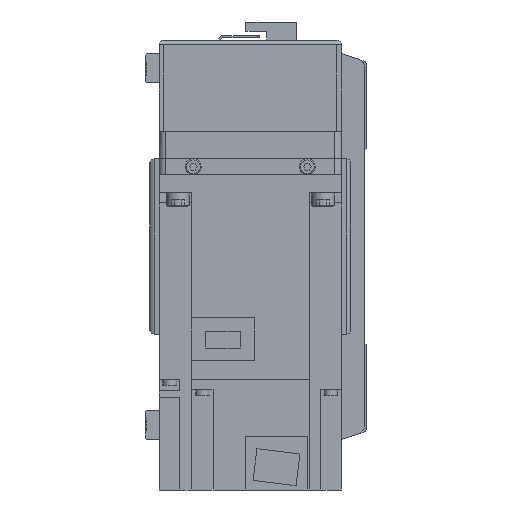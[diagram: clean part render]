
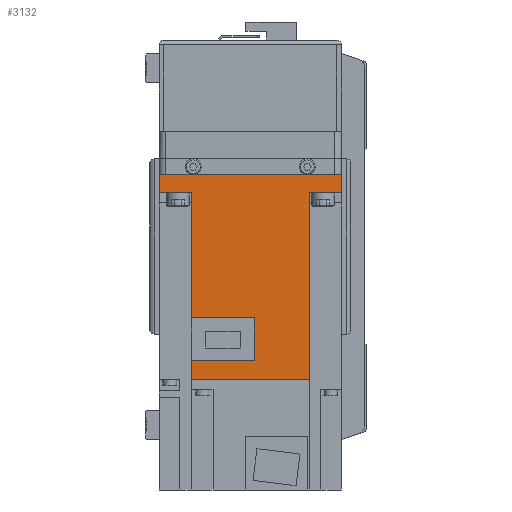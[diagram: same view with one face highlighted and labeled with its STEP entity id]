
A CAD part, left-side view. The second image highlights one B-rep face of the part: STEP entity #3132.
In plain terms, the highlighted planar face has unit normal (-1, 0, 0) as drawn and (1, 0, 0) by its records, which use the part's own axes.
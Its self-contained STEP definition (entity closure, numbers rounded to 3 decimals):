
#3132 = ADVANCED_FACE( '', ( #6492 ), #6493, .F. );
#6492 = FACE_OUTER_BOUND( '', #9862, .T. );
#6493 = PLANE( '', #9863 );
#9862 = EDGE_LOOP( '', ( #18721, #18722, #18723, #18724, #18725, #18726, #18727, #18728, #18729, #18730, #18731, #18732 ) );
#9863 = AXIS2_PLACEMENT_3D( '', #18733, #18734, #18735 );
#18721 = ORIENTED_EDGE( '', *, *, #20577, .F. );
#18722 = ORIENTED_EDGE( '', *, *, #21843, .F. );
#18723 = ORIENTED_EDGE( '', *, *, #20422, .F. );
#18724 = ORIENTED_EDGE( '', *, *, #19443, .T. );
#18725 = ORIENTED_EDGE( '', *, *, #21867, .F. );
#18726 = ORIENTED_EDGE( '', *, *, #21282, .T. );
#18727 = ORIENTED_EDGE( '', *, *, #19980, .T. );
#18728 = ORIENTED_EDGE( '', *, *, #21622, .F. );
#18729 = ORIENTED_EDGE( '', *, *, #21206, .F. );
#18730 = ORIENTED_EDGE( '', *, *, #21844, .F. );
#18731 = ORIENTED_EDGE( '', *, *, #22394, .F. );
#18732 = ORIENTED_EDGE( '', *, *, #22425, .F. );
#18733 = CARTESIAN_POINT( '', ( 40., 89.8, 40. ) );
#18734 = DIRECTION( '', ( -1., 0., 0. ) );
#18735 = DIRECTION( '', ( 0., 0., 1. ) );
#19443 = EDGE_CURVE( '', #23234, #23232, #23235, .T. );
#19980 = EDGE_CURVE( '', #24170, #24168, #24171, .T. );
#20422 = EDGE_CURVE( '', #23234, #24898, #24900, .T. );
#20577 = EDGE_CURVE( '', #25151, #25153, #25154, .T. );
#21206 = EDGE_CURVE( '', #26104, #26105, #26106, .T. );
#21282 = EDGE_CURVE( '', #26215, #24170, #26216, .T. );
#21622 = EDGE_CURVE( '', #26105, #24168, #26691, .T. );
#21843 = EDGE_CURVE( '', #24898, #25151, #26984, .T. );
#21844 = EDGE_CURVE( '', #26975, #26104, #26985, .T. );
#21867 = EDGE_CURVE( '', #26215, #23232, #27012, .T. );
#22394 = EDGE_CURVE( '', #27643, #26975, #27644, .T. );
#22425 = EDGE_CURVE( '', #25153, #27643, #27679, .T. );
#23232 = VERTEX_POINT( '', #28909 );
#23234 = VERTEX_POINT( '', #28912 );
#23235 = LINE( '', #28913, #28914 );
#24168 = VERTEX_POINT( '', #30232 );
#24170 = VERTEX_POINT( '', #30235 );
#24171 = LINE( '', #30236, #30237 );
#24898 = VERTEX_POINT( '', #31242 );
#24900 = LINE( '', #31245, #31246 );
#25151 = VERTEX_POINT( '', #31765 );
#25153 = VERTEX_POINT( '', #31768 );
#25154 = LINE( '', #31769, #31770 );
#26104 = VERTEX_POINT( '', #33180 );
#26105 = VERTEX_POINT( '', #33181 );
#26106 = LINE( '', #33182, #33183 );
#26215 = VERTEX_POINT( '', #33352 );
#26216 = LINE( '', #33353, #33354 );
#26691 = LINE( '', #34019, #34020 );
#26975 = VERTEX_POINT( '', #34412 );
#26984 = LINE( '', #34424, #34425 );
#26985 = LINE( '', #34426, #34427 );
#27012 = LINE( '', #34465, #34466 );
#27643 = VERTEX_POINT( '', #35408 );
#27644 = LINE( '', #35409, #35410 );
#27679 = LINE( '', #35459, #35460 );
#28909 = CARTESIAN_POINT( '', ( 40., 8., 25.95 ) );
#28912 = CARTESIAN_POINT( '', ( 40., 89.8, 25.95 ) );
#28913 = CARTESIAN_POINT( '', ( 40., 158., 25.95 ) );
#28914 = VECTOR( '', #36175, 1000. );
#30232 = CARTESIAN_POINT( '', ( 40., 0., -40. ) );
#30235 = CARTESIAN_POINT( '', ( 40., 0., 40. ) );
#30236 = CARTESIAN_POINT( '', ( 40., 0., 40. ) );
#30237 = VECTOR( '', #36905, 1000. );
#31242 = CARTESIAN_POINT( '', ( 40., 89.8, -25.95 ) );
#31245 = CARTESIAN_POINT( '', ( 40., 89.8, 40. ) );
#31246 = VECTOR( '', #37466, 1000. );
#31765 = CARTESIAN_POINT( '', ( 40., 81.4, -25.95 ) );
#31768 = CARTESIAN_POINT( '', ( 40., 81.4, 1.8 ) );
#31769 = CARTESIAN_POINT( '', ( 40., 81.4, -26. ) );
#31770 = VECTOR( '', #37658, 1000. );
#33180 = CARTESIAN_POINT( '', ( 40., 8., -25.95 ) );
#33181 = CARTESIAN_POINT( '', ( 40., 8., -40. ) );
#33182 = CARTESIAN_POINT( '', ( 40., 8., 40. ) );
#33183 = VECTOR( '', #38413, 1000. );
#33352 = CARTESIAN_POINT( '', ( 40., 8., 40. ) );
#33353 = CARTESIAN_POINT( '', ( 40., 89.8, 40. ) );
#33354 = VECTOR( '', #38504, 1000. );
#34019 = CARTESIAN_POINT( '', ( 40., 89.8, -40. ) );
#34020 = VECTOR( '', #38902, 1000. );
#34412 = CARTESIAN_POINT( '', ( 40., 62.8, -25.95 ) );
#34424 = CARTESIAN_POINT( '', ( 40., 158., -25.95 ) );
#34425 = VECTOR( '', #39141, 1000. );
#34426 = CARTESIAN_POINT( '', ( 40., 158., -25.95 ) );
#34427 = VECTOR( '', #39142, 1000. );
#34465 = CARTESIAN_POINT( '', ( 40., 8., 40. ) );
#34466 = VECTOR( '', #39163, 1000. );
#35408 = CARTESIAN_POINT( '', ( 40., 62.8, 1.8 ) );
#35409 = CARTESIAN_POINT( '', ( 40., 62.8, 1.8 ) );
#35410 = VECTOR( '', #39681, 1000. );
#35459 = CARTESIAN_POINT( '', ( 40., 81.4, 1.8 ) );
#35460 = VECTOR( '', #39702, 1000. );
#36175 = DIRECTION( '', ( 0., -1., 0. ) );
#36905 = DIRECTION( '', ( 0., 0., -1. ) );
#37466 = DIRECTION( '', ( 0., 0., -1. ) );
#37658 = DIRECTION( '', ( 0., 0., 1. ) );
#38413 = DIRECTION( '', ( 0., 0., -1. ) );
#38504 = DIRECTION( '', ( 0., -1., 0. ) );
#38902 = DIRECTION( '', ( 0., -1., 0. ) );
#39141 = DIRECTION( '', ( 0., -1., 0. ) );
#39142 = DIRECTION( '', ( 0., -1., 0. ) );
#39163 = DIRECTION( '', ( 0., 0., -1. ) );
#39681 = DIRECTION( '', ( 0., 0., -1. ) );
#39702 = DIRECTION( '', ( 0., -1., 0. ) );
